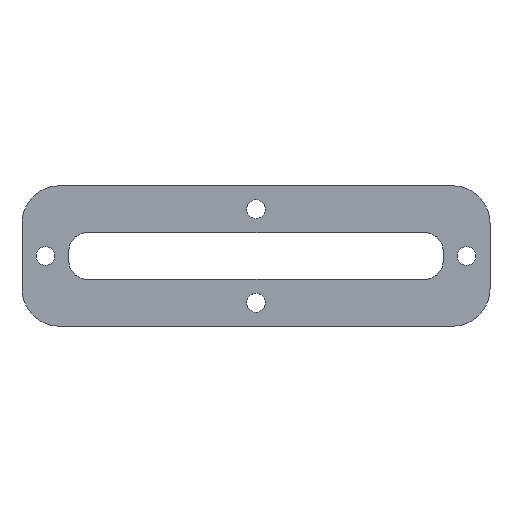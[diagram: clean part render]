
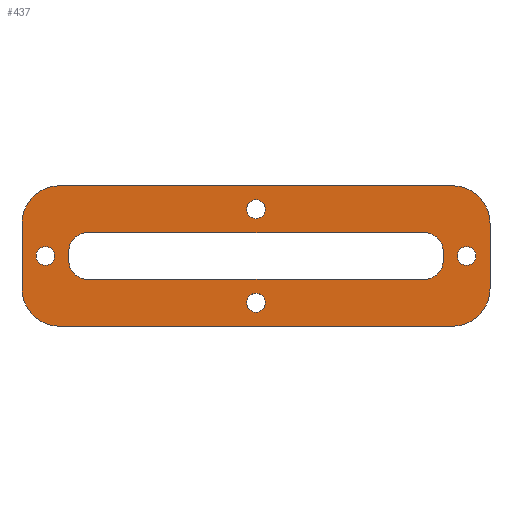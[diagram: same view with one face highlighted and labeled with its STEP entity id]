
A CAD part, top view. The second image highlights one B-rep face of the part: STEP entity #437.
In plain terms, the highlighted planar face has unit normal (0, 0, 1).
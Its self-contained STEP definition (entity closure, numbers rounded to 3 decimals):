
#15=FACE_BOUND('',#78,.T.);
#16=FACE_BOUND('',#79,.T.);
#17=FACE_BOUND('',#80,.T.);
#18=FACE_BOUND('',#81,.T.);
#19=FACE_BOUND('',#82,.T.);
#33=PLANE('',#503);
#55=FACE_OUTER_BOUND('',#77,.T.);
#77=EDGE_LOOP('',(#365,#366,#367,#368,#369,#370,#371,#372));
#78=EDGE_LOOP('',(#373));
#79=EDGE_LOOP('',(#374));
#80=EDGE_LOOP('',(#375));
#81=EDGE_LOOP('',(#376));
#82=EDGE_LOOP('',(#377,#378,#379,#380,#381,#382,#383,#384));
#92=LINE('',#649,#128);
#96=LINE('',#661,#132);
#100=LINE('',#673,#136);
#104=LINE('',#683,#140);
#111=LINE('',#715,#147);
#115=LINE('',#727,#151);
#119=LINE('',#739,#155);
#123=LINE('',#751,#159);
#128=VECTOR('',#518,10.);
#132=VECTOR('',#530,10.);
#136=VECTOR('',#542,10.);
#140=VECTOR('',#554,10.);
#147=VECTOR('',#587,10.);
#151=VECTOR('',#599,10.);
#155=VECTOR('',#611,10.);
#159=VECTOR('',#623,10.);
#162=CIRCLE('',#461,2.);
#164=CIRCLE('',#465,2.);
#166=CIRCLE('',#469,2.);
#168=CIRCLE('',#473,2.);
#169=CIRCLE('',#476,1.);
#171=CIRCLE('',#479,1.);
#173=CIRCLE('',#482,1.);
#175=CIRCLE('',#485,1.);
#178=CIRCLE('',#490,4.);
#180=CIRCLE('',#494,4.);
#182=CIRCLE('',#498,4.);
#184=CIRCLE('',#502,4.);
#187=VERTEX_POINT('',#640);
#188=VERTEX_POINT('',#642);
#190=VERTEX_POINT('',#648);
#192=VERTEX_POINT('',#654);
#194=VERTEX_POINT('',#660);
#196=VERTEX_POINT('',#666);
#198=VERTEX_POINT('',#672);
#200=VERTEX_POINT('',#678);
#201=VERTEX_POINT('',#685);
#203=VERTEX_POINT('',#691);
#205=VERTEX_POINT('',#697);
#207=VERTEX_POINT('',#703);
#211=VERTEX_POINT('',#712);
#212=VERTEX_POINT('',#714);
#214=VERTEX_POINT('',#720);
#216=VERTEX_POINT('',#726);
#218=VERTEX_POINT('',#732);
#220=VERTEX_POINT('',#738);
#222=VERTEX_POINT('',#744);
#224=VERTEX_POINT('',#750);
#227=EDGE_CURVE('',#188,#187,#162,.T.);
#230=EDGE_CURVE('',#190,#188,#92,.T.);
#233=EDGE_CURVE('',#192,#190,#164,.T.);
#236=EDGE_CURVE('',#194,#192,#96,.T.);
#239=EDGE_CURVE('',#196,#194,#166,.T.);
#242=EDGE_CURVE('',#198,#196,#100,.T.);
#245=EDGE_CURVE('',#200,#198,#168,.T.);
#248=EDGE_CURVE('',#187,#200,#104,.T.);
#249=EDGE_CURVE('',#201,#201,#169,.T.);
#252=EDGE_CURVE('',#203,#203,#171,.T.);
#255=EDGE_CURVE('',#205,#205,#173,.T.);
#258=EDGE_CURVE('',#207,#207,#175,.T.);
#263=EDGE_CURVE('',#212,#211,#111,.T.);
#266=EDGE_CURVE('',#214,#212,#178,.T.);
#269=EDGE_CURVE('',#216,#214,#115,.T.);
#272=EDGE_CURVE('',#218,#216,#180,.T.);
#275=EDGE_CURVE('',#220,#218,#119,.T.);
#278=EDGE_CURVE('',#222,#220,#182,.T.);
#281=EDGE_CURVE('',#224,#222,#123,.T.);
#284=EDGE_CURVE('',#211,#224,#184,.T.);
#365=ORIENTED_EDGE('',*,*,#284,.T.);
#366=ORIENTED_EDGE('',*,*,#281,.T.);
#367=ORIENTED_EDGE('',*,*,#278,.T.);
#368=ORIENTED_EDGE('',*,*,#275,.T.);
#369=ORIENTED_EDGE('',*,*,#272,.T.);
#370=ORIENTED_EDGE('',*,*,#269,.T.);
#371=ORIENTED_EDGE('',*,*,#266,.T.);
#372=ORIENTED_EDGE('',*,*,#263,.T.);
#373=ORIENTED_EDGE('',*,*,#258,.T.);
#374=ORIENTED_EDGE('',*,*,#255,.T.);
#375=ORIENTED_EDGE('',*,*,#252,.T.);
#376=ORIENTED_EDGE('',*,*,#249,.T.);
#377=ORIENTED_EDGE('',*,*,#248,.T.);
#378=ORIENTED_EDGE('',*,*,#245,.T.);
#379=ORIENTED_EDGE('',*,*,#242,.T.);
#380=ORIENTED_EDGE('',*,*,#239,.T.);
#381=ORIENTED_EDGE('',*,*,#236,.T.);
#382=ORIENTED_EDGE('',*,*,#233,.T.);
#383=ORIENTED_EDGE('',*,*,#230,.T.);
#384=ORIENTED_EDGE('',*,*,#227,.T.);
#437=ADVANCED_FACE('',(#55,#15,#16,#17,#18,#19),#33,.T.);
#461=AXIS2_PLACEMENT_3D('',#643,#512,#513);
#465=AXIS2_PLACEMENT_3D('',#655,#524,#525);
#469=AXIS2_PLACEMENT_3D('',#667,#536,#537);
#473=AXIS2_PLACEMENT_3D('',#679,#548,#549);
#476=AXIS2_PLACEMENT_3D('',#686,#557,#558);
#479=AXIS2_PLACEMENT_3D('',#692,#564,#565);
#482=AXIS2_PLACEMENT_3D('',#698,#571,#572);
#485=AXIS2_PLACEMENT_3D('',#704,#578,#579);
#490=AXIS2_PLACEMENT_3D('',#721,#593,#594);
#494=AXIS2_PLACEMENT_3D('',#733,#605,#606);
#498=AXIS2_PLACEMENT_3D('',#745,#617,#618);
#502=AXIS2_PLACEMENT_3D('',#755,#629,#630);
#503=AXIS2_PLACEMENT_3D('',#756,#631,#632);
#512=DIRECTION('center_axis',(0.,0.,-1.));
#513=DIRECTION('ref_axis',(0.,1.,0.));
#518=DIRECTION('',(0.,-1.,0.));
#524=DIRECTION('center_axis',(0.,0.,-1.));
#525=DIRECTION('ref_axis',(-1.,0.,0.));
#530=DIRECTION('',(1.,0.,0.));
#536=DIRECTION('center_axis',(0.,0.,-1.));
#537=DIRECTION('ref_axis',(0.,-1.,0.));
#542=DIRECTION('',(0.,1.,0.));
#548=DIRECTION('center_axis',(0.,0.,-1.));
#549=DIRECTION('ref_axis',(1.,0.,0.));
#554=DIRECTION('',(-1.,0.,0.));
#557=DIRECTION('center_axis',(0.,0.,-1.));
#558=DIRECTION('ref_axis',(-1.,0.,0.));
#564=DIRECTION('center_axis',(0.,0.,-1.));
#565=DIRECTION('ref_axis',(-1.,0.,0.));
#571=DIRECTION('center_axis',(0.,0.,-1.));
#572=DIRECTION('ref_axis',(-1.,0.,0.));
#578=DIRECTION('center_axis',(0.,0.,-1.));
#579=DIRECTION('ref_axis',(-1.,0.,0.));
#587=DIRECTION('',(0.,1.,0.));
#593=DIRECTION('center_axis',(0.,0.,1.));
#594=DIRECTION('ref_axis',(0.,-1.,0.));
#599=DIRECTION('',(1.,0.,0.));
#605=DIRECTION('center_axis',(0.,0.,1.));
#606=DIRECTION('ref_axis',(-1.,0.,0.));
#611=DIRECTION('',(0.,-1.,0.));
#617=DIRECTION('center_axis',(0.,0.,1.));
#618=DIRECTION('ref_axis',(0.,1.,0.));
#623=DIRECTION('',(-1.,0.,0.));
#629=DIRECTION('center_axis',(0.,0.,1.));
#630=DIRECTION('ref_axis',(1.,0.,0.));
#631=DIRECTION('center_axis',(0.,0.,1.));
#632=DIRECTION('ref_axis',(1.,0.,0.));
#640=CARTESIAN_POINT('',(-7.001,-2.5,1.));
#642=CARTESIAN_POINT('',(-5.001,-0.5,1.));
#643=CARTESIAN_POINT('Origin',(-7.001,-0.5,1.));
#648=CARTESIAN_POINT('',(-5.001,0.5,1.));
#649=CARTESIAN_POINT('',(-5.001,0.5,1.));
#654=CARTESIAN_POINT('',(-7.001,2.5,1.));
#655=CARTESIAN_POINT('Origin',(-7.001,0.5,1.));
#660=CARTESIAN_POINT('',(-43.001,2.5,1.));
#661=CARTESIAN_POINT('',(-43.001,2.5,1.));
#666=CARTESIAN_POINT('',(-45.001,0.5,1.));
#667=CARTESIAN_POINT('Origin',(-43.001,0.5,1.));
#672=CARTESIAN_POINT('',(-45.001,-0.5,1.));
#673=CARTESIAN_POINT('',(-45.001,-0.5,1.));
#678=CARTESIAN_POINT('',(-43.001,-2.5,1.));
#679=CARTESIAN_POINT('Origin',(-43.001,-0.5,1.));
#683=CARTESIAN_POINT('',(-7.001,-2.5,1.));
#685=CARTESIAN_POINT('',(-24.001,-5.,1.));
#686=CARTESIAN_POINT('Origin',(-25.001,-5.,1.));
#691=CARTESIAN_POINT('',(-24.001,5.,1.));
#692=CARTESIAN_POINT('Origin',(-25.001,5.,1.));
#697=CARTESIAN_POINT('',(-1.501,0.,1.));
#698=CARTESIAN_POINT('Origin',(-2.501,0.,1.));
#703=CARTESIAN_POINT('',(-46.501,0.,1.));
#704=CARTESIAN_POINT('Origin',(-47.501,0.,1.));
#712=CARTESIAN_POINT('',(-0.001,3.5,1.));
#714=CARTESIAN_POINT('',(-0.001,-3.5,1.));
#715=CARTESIAN_POINT('',(-0.001,-3.5,1.));
#720=CARTESIAN_POINT('',(-4.001,-7.5,1.));
#721=CARTESIAN_POINT('Origin',(-4.001,-3.5,1.));
#726=CARTESIAN_POINT('',(-46.001,-7.5,1.));
#727=CARTESIAN_POINT('',(-46.001,-7.5,1.));
#732=CARTESIAN_POINT('',(-50.001,-3.5,1.));
#733=CARTESIAN_POINT('Origin',(-46.001,-3.5,1.));
#738=CARTESIAN_POINT('',(-50.001,3.5,1.));
#739=CARTESIAN_POINT('',(-50.001,3.5,1.));
#744=CARTESIAN_POINT('',(-46.001,7.5,1.));
#745=CARTESIAN_POINT('Origin',(-46.001,3.5,1.));
#750=CARTESIAN_POINT('',(-4.001,7.5,1.));
#751=CARTESIAN_POINT('',(-4.001,7.5,1.));
#755=CARTESIAN_POINT('Origin',(-4.001,3.5,1.));
#756=CARTESIAN_POINT('Origin',(-25.001,0.,1.));
